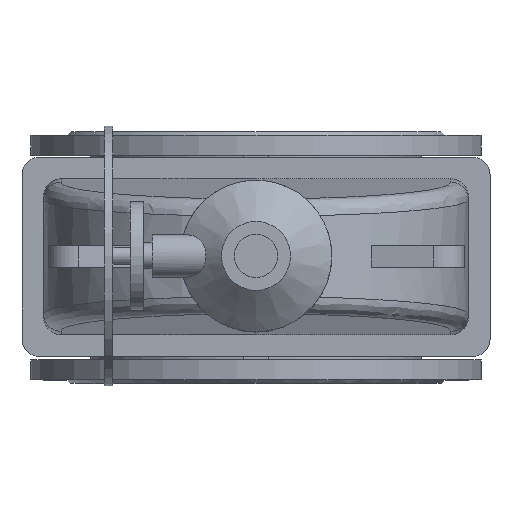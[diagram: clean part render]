
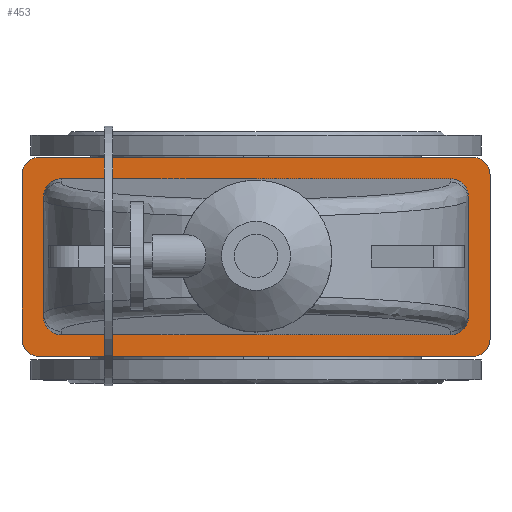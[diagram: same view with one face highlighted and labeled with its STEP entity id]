
A CAD part, top view. The second image highlights one B-rep face of the part: STEP entity #453.
In plain terms, the highlighted planar face has unit normal (0, 0, 1).
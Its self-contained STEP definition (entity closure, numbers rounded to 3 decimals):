
#453=ADVANCED_FACE('',(#3931,#3933),#3935,.T.);
#3931=FACE_BOUND('',#3932,.T.);
#3932=EDGE_LOOP('',(#6726,#6727,#6728,#6729,#6730,#6731,#6732,#6733));
#3933=FACE_BOUND('',#3934,.T.);
#3934=EDGE_LOOP('',(#6734,#6735,#6736,#6737,#6738,#6739,#6740,#6741));
#3935=PLANE('',#3936);
#3936=AXIS2_PLACEMENT_3D('',#3937,#3938,#3939);
#3937=CARTESIAN_POINT('',(0.,0.,586.));
#3938=DIRECTION('',(0.,-0.,1.));
#3939=DIRECTION('',(0.,1.,0.));
#6726=ORIENTED_EDGE('',*,*,#8373,.F.);
#6727=ORIENTED_EDGE('',*,*,#8374,.T.);
#6728=ORIENTED_EDGE('',*,*,#8375,.F.);
#6729=ORIENTED_EDGE('',*,*,#8376,.T.);
#6730=ORIENTED_EDGE('',*,*,#8377,.F.);
#6731=ORIENTED_EDGE('',*,*,#8378,.T.);
#6732=ORIENTED_EDGE('',*,*,#8379,.F.);
#6733=ORIENTED_EDGE('',*,*,#8380,.T.);
#6734=ORIENTED_EDGE('',*,*,#8371,.F.);
#6735=ORIENTED_EDGE('',*,*,#8370,.F.);
#6736=ORIENTED_EDGE('',*,*,#8372,.F.);
#6737=ORIENTED_EDGE('',*,*,#8345,.F.);
#6738=ORIENTED_EDGE('',*,*,#8381,.F.);
#6739=ORIENTED_EDGE('',*,*,#8382,.F.);
#6740=ORIENTED_EDGE('',*,*,#8383,.F.);
#6741=ORIENTED_EDGE('',*,*,#8338,.F.);
#8338=EDGE_CURVE('',#9235,#9237,#9238,.T.);
#8345=EDGE_CURVE('',#9247,#9245,#9249,.T.);
#8370=EDGE_CURVE('',#9288,#9286,#9290,.T.);
#8371=EDGE_CURVE('',#9286,#9235,#9291,.F.);
#8372=EDGE_CURVE('',#9245,#9288,#9292,.T.);
#8373=EDGE_CURVE('',#9293,#9294,#9295,.F.);
#8374=EDGE_CURVE('',#9293,#9296,#9297,.T.);
#8375=EDGE_CURVE('',#9298,#9296,#9299,.F.);
#8376=EDGE_CURVE('',#9298,#9300,#9301,.T.);
#8377=EDGE_CURVE('',#9302,#9300,#9303,.F.);
#8378=EDGE_CURVE('',#9302,#9304,#9305,.T.);
#8379=EDGE_CURVE('',#9306,#9304,#9307,.F.);
#8380=EDGE_CURVE('',#9306,#9294,#9308,.T.);
#8381=EDGE_CURVE('',#9309,#9247,#9310,.F.);
#8382=EDGE_CURVE('',#9311,#9309,#9312,.T.);
#8383=EDGE_CURVE('',#9237,#9311,#9313,.T.);
#9235=VERTEX_POINT('',#11209);
#9237=VERTEX_POINT('',#11213);
#9238=LINE('',#11214,#11215);
#9245=VERTEX_POINT('',#11234);
#9247=VERTEX_POINT('',#11238);
#9249=LINE('',#11242,#11243);
#9286=VERTEX_POINT('',#11335);
#9288=VERTEX_POINT('',#11339);
#9290=LINE('',#11343,#11344);
#9291=(BOUNDED_CURVE()B_SPLINE_CURVE(3,
(#11346,#11347,#11348,#11349),
.UNSPECIFIED.,.F.,.F.)B_SPLINE_CURVE_WITH_KNOTS((4,4),
(0.,1.),
.UNSPECIFIED.)CURVE()GEOMETRIC_REPRESENTATION_ITEM()RATIONAL_B_SPLINE_CURVE((1.,
0.805,0.805,1.))REPRESENTATION_ITEM(''));
#9292=(BOUNDED_CURVE()B_SPLINE_CURVE(3,
(#11350,#11351,#11352,#11353),
.UNSPECIFIED.,.F.,.F.)B_SPLINE_CURVE_WITH_KNOTS((4,4),
(0.,1.),
.UNSPECIFIED.)CURVE()GEOMETRIC_REPRESENTATION_ITEM()RATIONAL_B_SPLINE_CURVE((1.,
0.805,0.805,1.))REPRESENTATION_ITEM(''));
#9293=VERTEX_POINT('',#11354);
#9294=VERTEX_POINT('',#11355);
#9295=CIRCLE('',#11356,20.);
#9296=VERTEX_POINT('',#11360);
#9297=LINE('',#11361,#11362);
#9298=VERTEX_POINT('',#11364);
#9299=CIRCLE('',#11365,20.);
#9300=VERTEX_POINT('',#11369);
#9301=LINE('',#11370,#11371);
#9302=VERTEX_POINT('',#11373);
#9303=CIRCLE('',#11374,20.);
#9304=VERTEX_POINT('',#11378);
#9305=LINE('',#11379,#11380);
#9306=VERTEX_POINT('',#11382);
#9307=CIRCLE('',#11383,20.);
#9308=LINE('',#11387,#11388);
#9309=VERTEX_POINT('',#11390);
#9310=(BOUNDED_CURVE()B_SPLINE_CURVE(3,
(#11391,#11392,#11393,#11394),
.UNSPECIFIED.,.F.,.F.)B_SPLINE_CURVE_WITH_KNOTS((4,4),
(0.,1.),
.UNSPECIFIED.)CURVE()GEOMETRIC_REPRESENTATION_ITEM()RATIONAL_B_SPLINE_CURVE((1.,
0.805,0.805,1.))REPRESENTATION_ITEM(''));
#9311=VERTEX_POINT('',#11395);
#9312=LINE('',#11396,#11397);
#9313=(BOUNDED_CURVE()B_SPLINE_CURVE(3,
(#11399,#11400,#11401,#11402),
.UNSPECIFIED.,.F.,.F.)B_SPLINE_CURVE_WITH_KNOTS((4,4),
(0.,1.),
.UNSPECIFIED.)CURVE()GEOMETRIC_REPRESENTATION_ITEM()RATIONAL_B_SPLINE_CURVE((1.,
0.805,0.805,1.))REPRESENTATION_ITEM(''));
#11209=CARTESIAN_POINT('',(245.,-69.924,586.));
#11213=CARTESIAN_POINT('',(245.,69.924,586.));
#11214=CARTESIAN_POINT('',(245.,-69.924,586.));
#11215=VECTOR('',#11216,1.);
#11216=DIRECTION('',(0.,1.,0.));
#11234=CARTESIAN_POINT('',(-245.,-69.924,586.));
#11238=CARTESIAN_POINT('',(-245.,69.924,586.));
#11242=CARTESIAN_POINT('',(-245.,69.924,586.));
#11243=VECTOR('',#11244,1.);
#11244=DIRECTION('',(0.,-1.,0.));
#11335=CARTESIAN_POINT('',(225.,-90.,586.));
#11339=CARTESIAN_POINT('',(-225.,-90.,586.));
#11343=CARTESIAN_POINT('',(-225.,-90.,586.));
#11344=VECTOR('',#11345,1.);
#11345=DIRECTION('',(1.,0.,0.));
#11346=CARTESIAN_POINT('',(245.,-69.924,586.));
#11347=CARTESIAN_POINT('',(245.,-81.684,586.));
#11348=CARTESIAN_POINT('',(236.716,-90.,586.));
#11349=CARTESIAN_POINT('',(225.,-90.,586.));
#11350=CARTESIAN_POINT('',(-245.,-69.924,586.));
#11351=CARTESIAN_POINT('',(-245.,-81.684,586.));
#11352=CARTESIAN_POINT('',(-236.716,-90.,586.));
#11353=CARTESIAN_POINT('',(-225.,-90.,586.));
#11354=CARTESIAN_POINT('',(-250.,-115.,586.));
#11355=CARTESIAN_POINT('',(-270.,-95.,586.));
#11356=AXIS2_PLACEMENT_3D('',#11357,#11358,#11359);
#11357=CARTESIAN_POINT('',(-250.,-95.,586.));
#11358=DIRECTION('',(0.,-0.,1.));
#11359=DIRECTION('',(-1.,0.,0.));
#11360=CARTESIAN_POINT('',(250.,-115.,586.));
#11361=CARTESIAN_POINT('',(-250.,-115.,586.));
#11362=VECTOR('',#11363,1.);
#11363=DIRECTION('',(1.,0.,0.));
#11364=CARTESIAN_POINT('',(270.,-95.,586.));
#11365=AXIS2_PLACEMENT_3D('',#11366,#11367,#11368);
#11366=CARTESIAN_POINT('',(250.,-95.,586.));
#11367=DIRECTION('',(0.,-0.,1.));
#11368=DIRECTION('',(0.,-1.,0.));
#11369=CARTESIAN_POINT('',(270.,95.,586.));
#11370=CARTESIAN_POINT('',(270.,-95.,586.));
#11371=VECTOR('',#11372,1.);
#11372=DIRECTION('',(0.,1.,0.));
#11373=CARTESIAN_POINT('',(250.,115.,586.));
#11374=AXIS2_PLACEMENT_3D('',#11375,#11376,#11377);
#11375=CARTESIAN_POINT('',(250.,95.,586.));
#11376=DIRECTION('',(0.,-0.,1.));
#11377=DIRECTION('',(1.,0.,0.));
#11378=CARTESIAN_POINT('',(-250.,115.,586.));
#11379=CARTESIAN_POINT('',(250.,115.,586.));
#11380=VECTOR('',#11381,1.);
#11381=DIRECTION('',(-1.,0.,0.));
#11382=CARTESIAN_POINT('',(-270.,95.,586.));
#11383=AXIS2_PLACEMENT_3D('',#11384,#11385,#11386);
#11384=CARTESIAN_POINT('',(-250.,95.,586.));
#11385=DIRECTION('',(0.,-0.,1.));
#11386=DIRECTION('',(0.,1.,0.));
#11387=CARTESIAN_POINT('',(-270.,95.,586.));
#11388=VECTOR('',#11389,1.);
#11389=DIRECTION('',(0.,-1.,0.));
#11390=CARTESIAN_POINT('',(-225.,90.,586.));
#11391=CARTESIAN_POINT('',(-245.,69.924,586.));
#11392=CARTESIAN_POINT('',(-245.,81.684,586.));
#11393=CARTESIAN_POINT('',(-236.716,90.,586.));
#11394=CARTESIAN_POINT('',(-225.,90.,586.));
#11395=CARTESIAN_POINT('',(225.,90.,586.));
#11396=CARTESIAN_POINT('',(225.,90.,586.));
#11397=VECTOR('',#11398,1.);
#11398=DIRECTION('',(-1.,0.,0.));
#11399=CARTESIAN_POINT('',(245.,69.924,586.));
#11400=CARTESIAN_POINT('',(245.,81.684,586.));
#11401=CARTESIAN_POINT('',(236.716,90.,586.));
#11402=CARTESIAN_POINT('',(225.,90.,586.));
